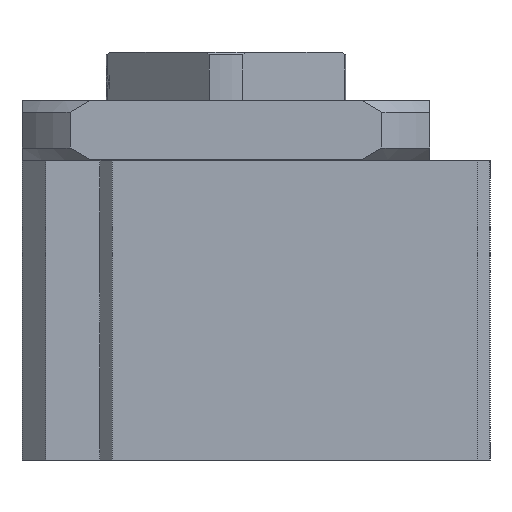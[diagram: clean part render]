
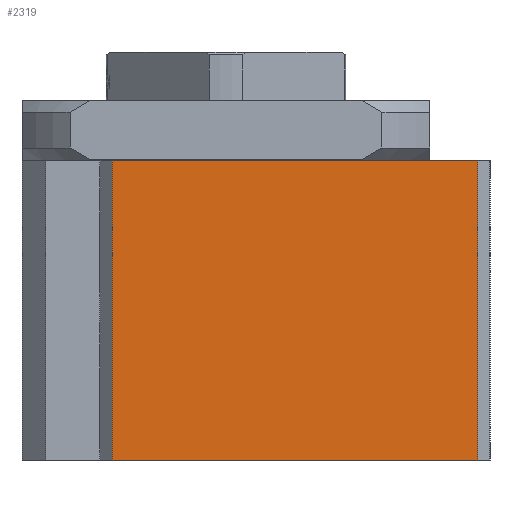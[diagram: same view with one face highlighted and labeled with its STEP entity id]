
A CAD part, left-side view. The second image highlights one B-rep face of the part: STEP entity #2319.
In plain terms, the highlighted planar face has unit normal (-1, 0, 0).
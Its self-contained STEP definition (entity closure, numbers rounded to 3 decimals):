
#120=LINE('',#3535,#294);
#133=LINE('',#3568,#307);
#134=LINE('',#3571,#308);
#135=LINE('',#3572,#309);
#294=VECTOR('',#2804,1000.);
#307=VECTOR('',#2827,1000.);
#308=VECTOR('',#2828,1000.);
#309=VECTOR('',#2829,1000.);
#460=PLANE('',#2520);
#598=ORIENTED_EDGE('',*,*,#1231,.F.);
#599=ORIENTED_EDGE('',*,*,#1232,.F.);
#600=ORIENTED_EDGE('',*,*,#1215,.T.);
#601=ORIENTED_EDGE('',*,*,#1233,.T.);
#1215=EDGE_CURVE('',#1531,#1532,#120,.T.);
#1231=EDGE_CURVE('',#1546,#1547,#133,.T.);
#1232=EDGE_CURVE('',#1531,#1546,#134,.T.);
#1233=EDGE_CURVE('',#1532,#1547,#135,.T.);
#1531=VERTEX_POINT('',#3536);
#1532=VERTEX_POINT('',#3537);
#1546=VERTEX_POINT('',#3569);
#1547=VERTEX_POINT('',#3570);
#1846=EDGE_LOOP('',(#598,#599,#600,#601));
#2068=FACE_BOUND('',#1846,.T.);
#2319=ADVANCED_FACE('',(#2068),#460,.T.);
#2520=AXIS2_PLACEMENT_3D('',#3567,#2825,#2826);
#2804=DIRECTION('',(0.,-1.,0.));
#2825=DIRECTION('',(-1.,0.,0.));
#2826=DIRECTION('',(0.,0.,1.));
#2827=DIRECTION('',(0.,-1.,0.));
#2828=DIRECTION('',(0.,0.,1.));
#2829=DIRECTION('',(0.,0.,1.));
#3535=CARTESIAN_POINT('',(-30.,9.48,-25.));
#3536=CARTESIAN_POINT('',(-30.,9.48,-25.));
#3537=CARTESIAN_POINT('',(-30.,-20.98,-25.));
#3567=CARTESIAN_POINT('',(-30.,9.48,-25.));
#3568=CARTESIAN_POINT('',(-30.,9.48,0.));
#3569=CARTESIAN_POINT('',(-30.,9.48,0.));
#3570=CARTESIAN_POINT('',(-30.,-20.98,0.));
#3571=CARTESIAN_POINT('',(-30.,9.48,-25.));
#3572=CARTESIAN_POINT('',(-30.,-20.98,-25.));
